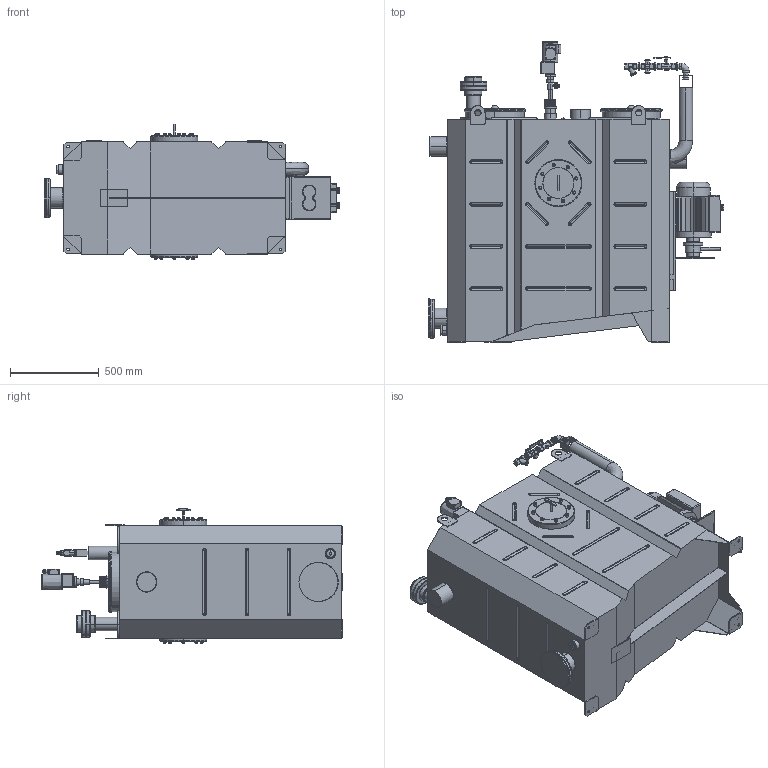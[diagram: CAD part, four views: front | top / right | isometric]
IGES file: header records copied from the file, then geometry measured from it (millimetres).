
Start section: SolidWorks IGES file using analytic representation for surfaces
Global section: file name: C:\Documents and Settings\jkrao\Desktop\NS3\75737441 _ OS-RIGHT.IGS; native system: SolidWorks 2010; preprocessor: SolidWorks 2010; author: jkrao; date: 101221.122404; units: millimetre
Bounding box: 1670 x 1700 x 765.36 mm (x, y, z)
Surface area: 8752850.6 mm2 (no closed solid volume)
Topology: 0 solids, 0 shells, 2330 faces, 29886 edges, 29839 vertices
Faces by surface type: bspline 1530, revolution 800
